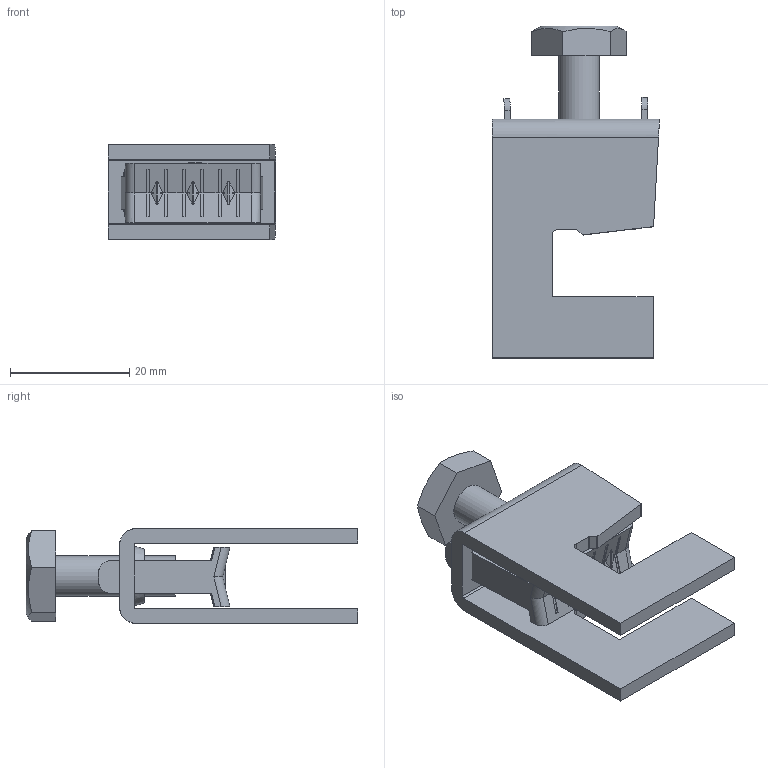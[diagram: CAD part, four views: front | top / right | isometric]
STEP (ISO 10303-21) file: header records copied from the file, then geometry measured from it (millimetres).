
FILE_DESCRIPTION (( 'STEP AP203' ), '1' );
FILE_NAME ('54290.STEP', '2021-08-13T05:14:58', ( '' ), ( '' ), 'SwSTEP 2.0', 'SolidWorks 2017', '' );
FILE_SCHEMA (( 'CONFIG_CONTROL_DESIGN' ));
Length unit declared in the file: millimetre
Products named in the file (2): 54290
Bounding box: 28 x 55.62 x 16 mm (x, y, z)
Volume: 7038.2 mm3; surface area: 7049.5 mm2
Topology: 3 solids, 3 shells, 246 faces, 684 edges, 454 vertices
Faces by surface type: plane 156, bspline 56, cylinder 32, cone 2
Full cylindrical faces by diameter (mm): 6.8 x2
Entity records: 10693 total; most frequent: CARTESIAN_POINT 4650, ORIENTED_EDGE 1358, DIRECTION 969, EDGE_CURVE 679, LINE 497, VECTOR 497, VERTEX_POINT 453, EDGE_LOOP 272
